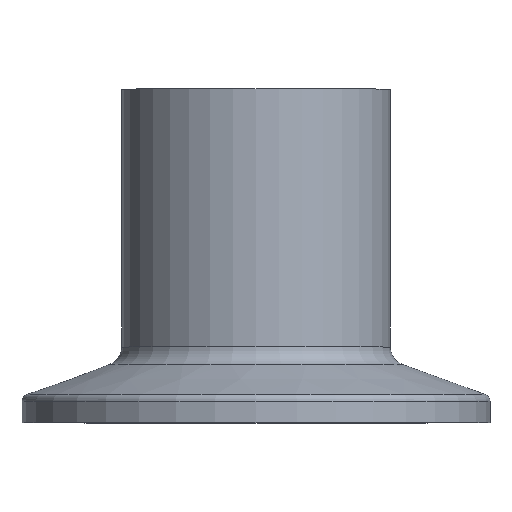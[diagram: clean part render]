
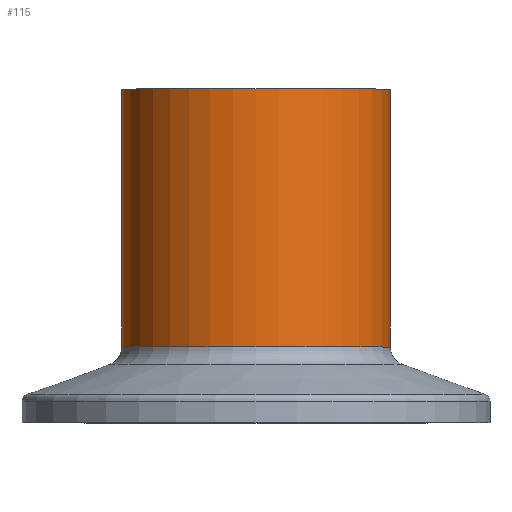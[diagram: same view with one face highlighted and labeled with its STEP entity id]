
A CAD part, top view. The second image highlights one B-rep face of the part: STEP entity #115.
In plain terms, the highlighted cylindrical face has radius 14.5 mm (diameter 29 mm), a full revolution.
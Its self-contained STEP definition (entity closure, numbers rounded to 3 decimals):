
#73=CARTESIAN_POINT('',(14.5,36.,0.0));
#74=VERTEX_POINT('',#73);
#75=CARTESIAN_POINT('',(0.0,36.,0.0));
#76=DIRECTION('',(0.0,-1.0,0.0));
#77=DIRECTION('',(1.0,0.0,0.0));
#78=AXIS2_PLACEMENT_3D('',#75,#76,#77);
#79=CIRCLE('',#78,14.5);
#80=EDGE_CURVE('',#74,#74,#79,.T.);
#96=CARTESIAN_POINT('',(0.0,22.082,0.0));
#97=DIRECTION('',(0.0,-1.0,0.0));
#98=DIRECTION('',(1.0,0.0,0.0));
#99=AXIS2_PLACEMENT_3D('',#96,#97,#98);
#100=CYLINDRICAL_SURFACE('',#99,14.5);
#101=CARTESIAN_POINT('',(14.5,8.163,0.0));
#102=VERTEX_POINT('',#101);
#103=CARTESIAN_POINT('',(0.0,8.163,0.0));
#104=DIRECTION('',(0.0,-1.0,0.0));
#105=DIRECTION('',(1.0,0.0,0.0));
#106=AXIS2_PLACEMENT_3D('',#103,#104,#105);
#107=CIRCLE('',#106,14.5);
#108=EDGE_CURVE('',#102,#102,#107,.T.);
#109=ORIENTED_EDGE('',*,*,#108,.F.);
#110=EDGE_LOOP('',(#109));
#111=FACE_OUTER_BOUND('',#110,.T.);
#112=ORIENTED_EDGE('',*,*,#80,.T.);
#113=EDGE_LOOP('',(#112));
#114=FACE_BOUND('',#113,.T.);
#115=ADVANCED_FACE('',(#111,#114),#100,.T.);
